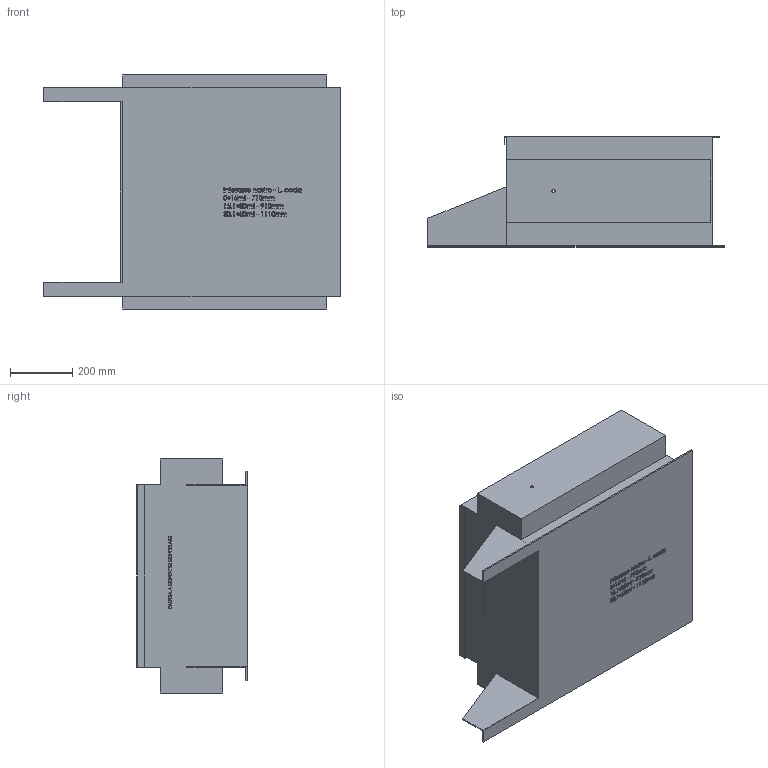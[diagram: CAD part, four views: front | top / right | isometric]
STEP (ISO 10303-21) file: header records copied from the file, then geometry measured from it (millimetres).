
FILE_DESCRIPTION (( 'STEP AP203' ), '1' );
FILE_NAME ('30753.step', '2019-03-14T14:31:39', ( 'PC' ), ( 'Hewlett-Packard Company' ), 'SwSTEP 2.0', 'SolidWorks 2016', '' );
FILE_SCHEMA (( 'CONFIG_CONTROL_DESIGN' ));
Products named in the file (1): 30753
Bounding box: 950 x 353.5 x 750 mm (x, y, z)
Volume: 158883496.3 mm3; surface area: 2376297.4 mm2
Topology: 1 solids, 1 shells, 1110 faces, 2964 edges, 1976 vertices
Faces by surface type: plane 679, bspline 429, cylinder 2
Entity records: 57931 total; most frequent: CARTESIAN_POINT 33072, ORIENTED_EDGE 5928, DIRECTION 3474, EDGE_CURVE 2964, VECTOR 2102, LINE 2102, VERTEX_POINT 1976, EDGE_LOOP 1232
